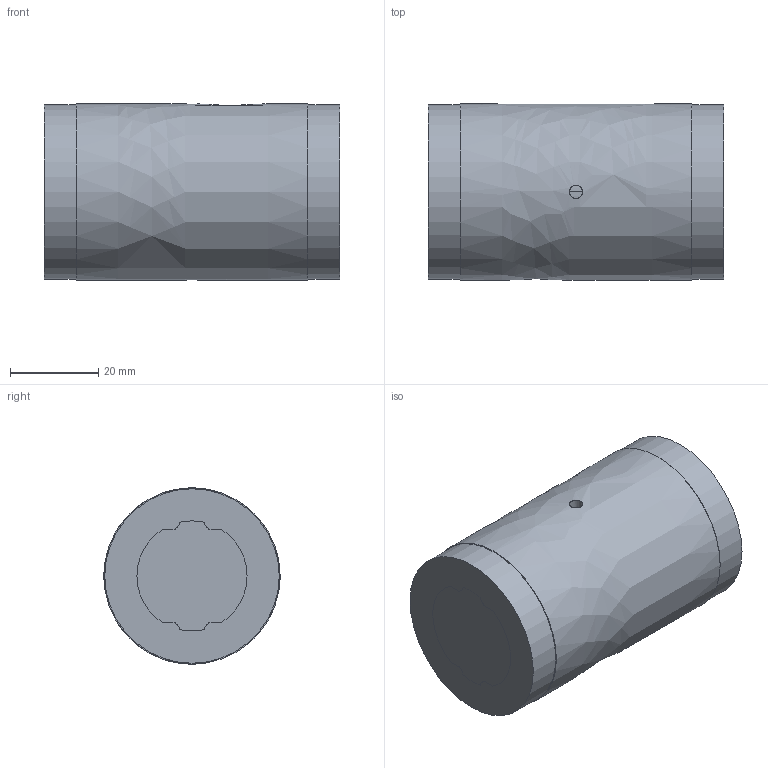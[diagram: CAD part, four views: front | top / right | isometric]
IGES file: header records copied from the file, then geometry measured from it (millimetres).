
Start section: Data from Parasolid IGES Translator 26.0.171, Copyright(c) 2006 Siemens PLM Software. All Rights Reserved.
Global section: file name: LT25X+67L(00).igs; native system: By Siemens PLM Incorporated; preprocessor: XPlus GENERIC/IGES 26.0.171; author: Noname; organization: Noname; date: 20240528.070952; units: millimetre
Bounding box: 67 x 40 x 40 mm (x, y, z)
Surface area: 22042.1 mm2 (no closed solid volume)
Topology: 0 solids, 0 shells, 66 faces, 362 edges, 356 vertices
Faces by surface type: revolution 41, extrusion 25
